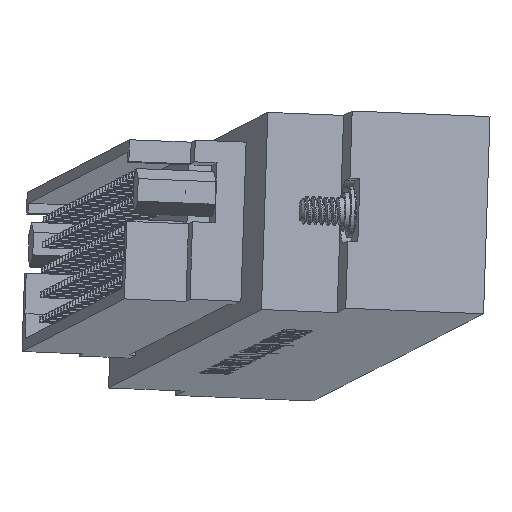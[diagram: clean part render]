
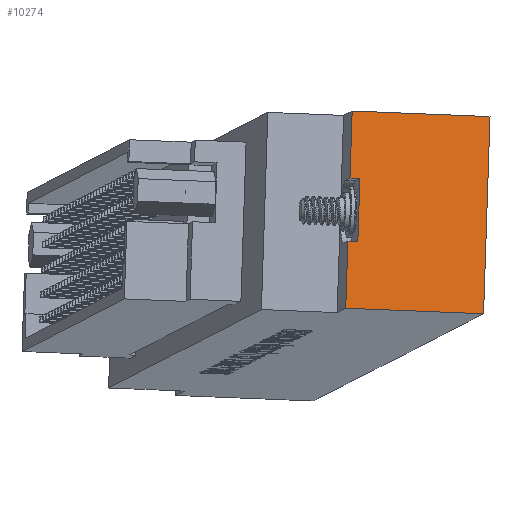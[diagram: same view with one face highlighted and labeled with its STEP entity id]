
A CAD part, top view. The second image highlights one B-rep face of the part: STEP entity #10274.
In plain terms, the highlighted planar face has unit normal (0.118, 0.059, 0.991).
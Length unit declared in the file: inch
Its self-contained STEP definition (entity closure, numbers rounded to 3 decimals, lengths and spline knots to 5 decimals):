
#9609=CARTESIAN_POINT('',(3.07751,-0.6147,3.31929));
#9610=VERTEX_POINT('',#9609);
#9650=CARTESIAN_POINT('',(3.62833,-0.63679,3.25499));
#9651=VERTEX_POINT('',#9650);
#9658=CARTESIAN_POINT('',(3.62833,-0.63679,3.25499));
#9659=DIRECTION('',(-0.992,0.04,0.116));
#9660=VECTOR('',#9659,0.555);
#9661=LINE('',#9658,#9660);
#9662=EDGE_CURVE('',#9651,#9610,#9661,.T.);
#10118=CARTESIAN_POINT('',(3.12599,-0.34797,3.29766));
#10119=VERTEX_POINT('',#10118);
#10134=CARTESIAN_POINT('',(3.08629,-0.34638,3.3023));
#10135=VERTEX_POINT('',#10134);
#10142=CARTESIAN_POINT('',(3.12599,-0.34797,3.29766));
#10143=DIRECTION('',(-0.992,0.04,0.116));
#10144=VECTOR('',#10143,0.04);
#10145=LINE('',#10142,#10144);
#10146=EDGE_CURVE('',#10119,#10135,#10145,.T.);
#10156=CARTESIAN_POINT('',(3.13421,-0.09661,3.28175));
#10157=VERTEX_POINT('',#10156);
#10166=CARTESIAN_POINT('',(3.09451,-0.09502,3.28638));
#10167=VERTEX_POINT('',#10166);
#10168=CARTESIAN_POINT('',(3.09451,-0.09502,3.28638));
#10169=DIRECTION('',(0.992,-0.04,-0.116));
#10170=VECTOR('',#10169,0.04);
#10171=LINE('',#10168,#10170);
#10172=EDGE_CURVE('',#10167,#10157,#10171,.T.);
#10221=CARTESIAN_POINT('',(3.13421,-0.09661,3.28175));
#10222=DIRECTION('',(-0.033,-0.997,0.063));
#10223=VECTOR('',#10222,0.252);
#10224=LINE('',#10221,#10223);
#10225=EDGE_CURVE('',#10157,#10119,#10224,.T.);
#10235=CARTESIAN_POINT('',(3.65411,0.15121,3.2051));
#10236=DIRECTION('',(0.118,0.059,0.991));
#10237=DIRECTION('',(0.992,-0.04,-0.116));
#10238=AXIS2_PLACEMENT_3D('',#10235,#10236,#10237);
#10239=PLANE('',#10238);
#10240=ORIENTED_EDGE('',*,*,#10172,.T.);
#10241=ORIENTED_EDGE('',*,*,#10225,.T.);
#10242=ORIENTED_EDGE('',*,*,#10146,.T.);
#10243=CARTESIAN_POINT('',(3.08629,-0.34638,3.3023));
#10244=DIRECTION('',(-0.033,-0.997,0.063));
#10245=VECTOR('',#10244,0.269);
#10246=LINE('',#10243,#10245);
#10247=EDGE_CURVE('',#10135,#9610,#10246,.T.);
#10248=ORIENTED_EDGE('',*,*,#10247,.T.);
#10249=ORIENTED_EDGE('',*,*,#9662,.F.);
#10250=CARTESIAN_POINT('',(3.65411,0.15121,3.2051));
#10251=VERTEX_POINT('',#10250);
#10252=CARTESIAN_POINT('',(3.65411,0.15121,3.2051));
#10253=DIRECTION('',(-0.033,-0.997,0.063));
#10254=VECTOR('',#10253,0.79);
#10255=LINE('',#10252,#10254);
#10256=EDGE_CURVE('',#10251,#9651,#10255,.T.);
#10257=ORIENTED_EDGE('',*,*,#10256,.F.);
#10258=CARTESIAN_POINT('',(3.10329,0.1733,3.2694));
#10259=VERTEX_POINT('',#10258);
#10260=CARTESIAN_POINT('',(3.65411,0.15121,3.2051));
#10261=DIRECTION('',(-0.992,0.04,0.116));
#10262=VECTOR('',#10261,0.555);
#10263=LINE('',#10260,#10262);
#10264=EDGE_CURVE('',#10251,#10259,#10263,.T.);
#10265=ORIENTED_EDGE('',*,*,#10264,.T.);
#10266=CARTESIAN_POINT('',(3.10329,0.1733,3.2694));
#10267=DIRECTION('',(-0.033,-0.997,0.063));
#10268=VECTOR('',#10267,0.269);
#10269=LINE('',#10266,#10268);
#10270=EDGE_CURVE('',#10259,#10167,#10269,.T.);
#10271=ORIENTED_EDGE('',*,*,#10270,.T.);
#10272=EDGE_LOOP('',(#10240,#10241,#10242,#10248,#10249,#10257,#10265,#10271));
#10273=FACE_OUTER_BOUND('',#10272,.T.);
#10274=ADVANCED_FACE('',(#10273),#10239,.T.);
